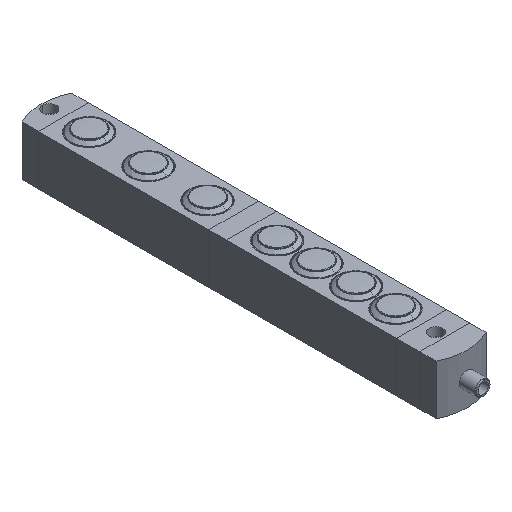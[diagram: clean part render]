
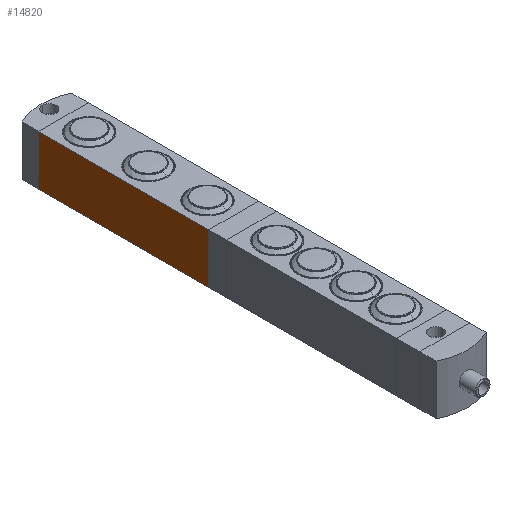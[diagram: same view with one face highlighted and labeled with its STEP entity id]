
A CAD part, isometric view. The second image highlights one B-rep face of the part: STEP entity #14820.
In plain terms, the highlighted planar face has unit normal (-1, 0, 0) as drawn and (0, 0, 1) by its records, which use the part's own axes.
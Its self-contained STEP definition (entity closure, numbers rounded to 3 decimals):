
#93 = VECTOR ( 'NONE', #571, 1000. ) ;
#571 = DIRECTION ( 'NONE',  ( 0., -1., 0. ) ) ;
#774 = EDGE_CURVE ( 'NONE', #5758, #12401, #2637, .T. ) ;
#2367 = ORIENTED_EDGE ( 'NONE', *, *, #8334, .F. ) ;
#2459 = PLANE ( 'NONE',  #16638 ) ;
#2575 = VECTOR ( 'NONE', #4051, 1000. ) ;
#2637 = LINE ( 'NONE', #5142, #13494 ) ;
#2829 = LINE ( 'NONE', #13502, #2575 ) ;
#3413 = EDGE_CURVE ( 'NONE', #7774, #8127, #2829, .T. ) ;
#4051 = DIRECTION ( 'NONE',  ( 1., 0., 0. ) ) ;
#4543 = LINE ( 'NONE', #10525, #7670 ) ;
#4795 = CARTESIAN_POINT ( 'NONE',  ( -68.35, 40., 20. ) ) ;
#5142 = CARTESIAN_POINT ( 'NONE',  ( -68.35, 0., 20. ) ) ;
#5758 = VERTEX_POINT ( 'NONE', #16244 ) ;
#6670 = ORIENTED_EDGE ( 'NONE', *, *, #774, .T. ) ;
#7291 = LINE ( 'NONE', #8426, #93 ) ;
#7352 = CARTESIAN_POINT ( 'NONE',  ( -68.35, 40., 20. ) ) ;
#7670 = VECTOR ( 'NONE', #15041, 1000. ) ;
#7774 = VERTEX_POINT ( 'NONE', #7352 ) ;
#8127 = VERTEX_POINT ( 'NONE', #11290 ) ;
#8334 = EDGE_CURVE ( 'NONE', #8127, #12401, #4543, .T. ) ;
#8426 = CARTESIAN_POINT ( 'NONE',  ( -68.35, 40., 20. ) ) ;
#8940 = DIRECTION ( 'NONE',  ( 0., 0., -1. ) ) ;
#9205 = DIRECTION ( 'NONE',  ( 1., 0., 0. ) ) ;
#10525 = CARTESIAN_POINT ( 'NONE',  ( 68.35, 40., 20. ) ) ;
#11237 = EDGE_CURVE ( 'NONE', #7774, #5758, #7291, .T. ) ;
#11290 = CARTESIAN_POINT ( 'NONE',  ( 68.35, 40., 20. ) ) ;
#12401 = VERTEX_POINT ( 'NONE', #12602 ) ;
#12602 = CARTESIAN_POINT ( 'NONE',  ( 68.35, 0., 20. ) ) ;
#12635 = ORIENTED_EDGE ( 'NONE', *, *, #11237, .T. ) ;
#13494 = VECTOR ( 'NONE', #9205, 1000. ) ;
#13502 = CARTESIAN_POINT ( 'NONE',  ( -68.35, 40., 20. ) ) ;
#14820 = ADVANCED_FACE ( 'NONE', ( #15561 ), #2459, .F. ) ;
#15041 = DIRECTION ( 'NONE',  ( 0., -1., 0. ) ) ;
#15301 = DIRECTION ( 'NONE',  ( -1., 0., 0. ) ) ;
#15561 = FACE_OUTER_BOUND ( 'NONE', #16769, .T. ) ;
#16244 = CARTESIAN_POINT ( 'NONE',  ( -68.35, 0., 20. ) ) ;
#16638 = AXIS2_PLACEMENT_3D ( 'NONE', #4795, #8940, #15301 ) ;
#16685 = ORIENTED_EDGE ( 'NONE', *, *, #3413, .F. ) ;
#16769 = EDGE_LOOP ( 'NONE', ( #6670, #2367, #16685, #12635 ) ) ;
